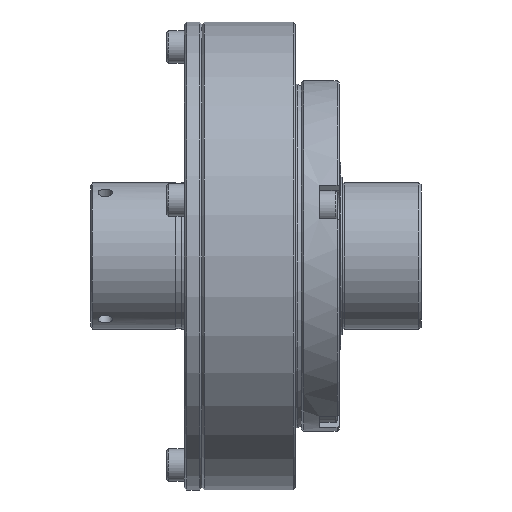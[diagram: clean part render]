
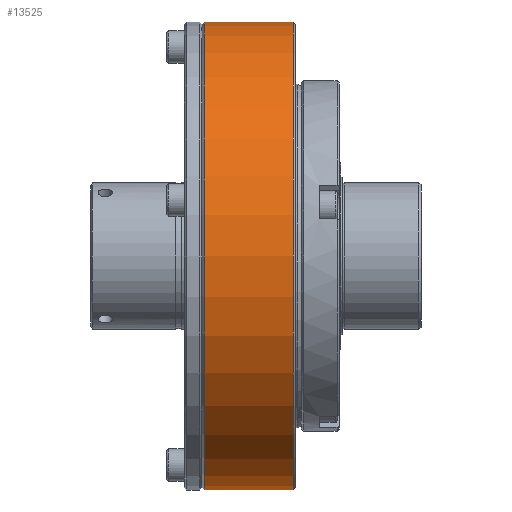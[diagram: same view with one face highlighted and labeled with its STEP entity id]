
A CAD part, front view. The second image highlights one B-rep face of the part: STEP entity #13525.
In plain terms, the highlighted cylindrical face has radius 40 mm (diameter 80 mm), a full revolution.
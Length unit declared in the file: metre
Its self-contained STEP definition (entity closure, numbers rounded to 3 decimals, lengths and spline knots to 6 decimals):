
#19 = CIRCLE ( 'NONE', #7179, 0.04 ) ;
#161 = EDGE_LOOP ( 'NONE', ( #15553 ) ) ;
#334 = CARTESIAN_POINT ( 'NONE',  ( 0.0194, 0., 0. ) ) ;
#520 = DIRECTION ( 'NONE',  ( 0., 0., 1. ) ) ;
#1767 = CYLINDRICAL_SURFACE ( 'NONE', #8010, 0.04 ) ;
#2096 = AXIS2_PLACEMENT_3D ( 'NONE', #17161, #10353, #15742 ) ;
#2699 = EDGE_LOOP ( 'NONE', ( #4387 ) ) ;
#3996 = EDGE_CURVE ( 'NONE', #5167, #5167, #19, .T. ) ;
#4387 = ORIENTED_EDGE ( 'NONE', *, *, #16578, .T. ) ;
#4758 = CARTESIAN_POINT ( 'NONE',  ( 0.0346, 0., 0.04 ) ) ;
#5167 = VERTEX_POINT ( 'NONE', #16293 ) ;
#6949 = FACE_OUTER_BOUND ( 'NONE', #161, .T. ) ;
#7179 = AXIS2_PLACEMENT_3D ( 'NONE', #334, #11265, #520 ) ;
#7375 = VERTEX_POINT ( 'NONE', #4758 ) ;
#8010 = AXIS2_PLACEMENT_3D ( 'NONE', #14158, #9748, #9830 ) ;
#8301 = FACE_OUTER_BOUND ( 'NONE', #2699, .T. ) ;
#9748 = DIRECTION ( 'NONE',  ( -1., 0., 0. ) ) ;
#9830 = DIRECTION ( 'NONE',  ( 0., 0., 1. ) ) ;
#10353 = DIRECTION ( 'NONE',  ( -1., 0., 0. ) ) ;
#10390 = CIRCLE ( 'NONE', #2096, 0.04 ) ;
#11265 = DIRECTION ( 'NONE',  ( 1., 0., 0. ) ) ;
#13525 = ADVANCED_FACE ( 'NONE', ( #8301, #6949 ), #1767, .T. ) ;
#14158 = CARTESIAN_POINT ( 'NONE',  ( 0.019, 0., 0. ) ) ;
#15553 = ORIENTED_EDGE ( 'NONE', *, *, #3996, .T. ) ;
#15742 = DIRECTION ( 'NONE',  ( 0., 0., 1. ) ) ;
#16293 = CARTESIAN_POINT ( 'NONE',  ( 0.0194, 0., 0.04 ) ) ;
#16578 = EDGE_CURVE ( 'NONE', #7375, #7375, #10390, .T. ) ;
#17161 = CARTESIAN_POINT ( 'NONE',  ( 0.0346, 0., 0. ) ) ;
